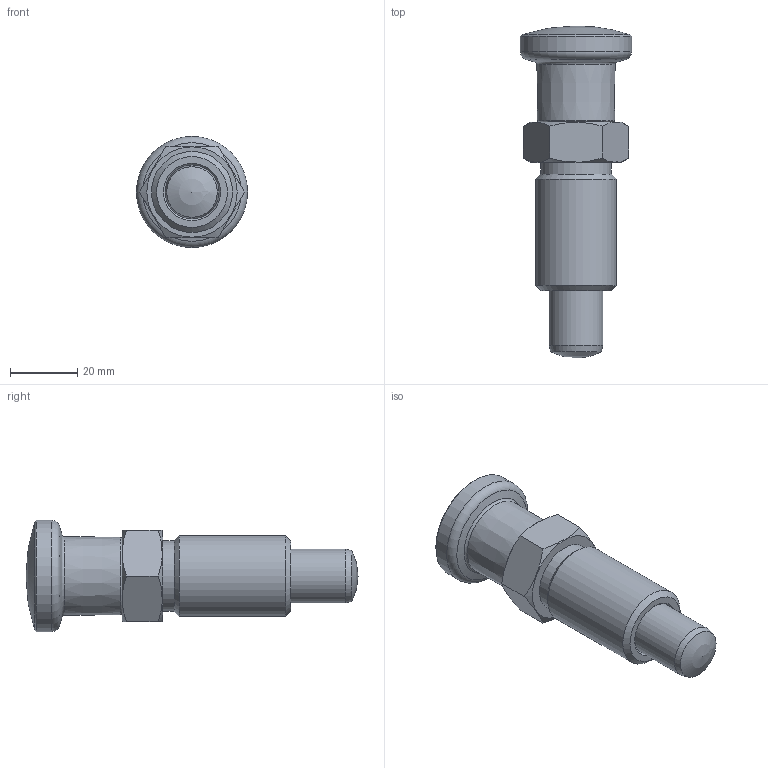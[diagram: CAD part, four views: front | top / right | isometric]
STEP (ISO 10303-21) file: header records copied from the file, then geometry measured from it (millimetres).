
FILE_DESCRIPTION( ( 'STEP AP203' ), '1' );
FILE_NAME( 'C:/Temp/Ganter_Step_05_03_2020/data/3_1/gn817/gn817_ni-rastbolzen_rot/Stainless steel-Indexing plunger GN 817-16-20-B-NI-RT (deactivated).stp', '2020-03-12T09:00:22', ( 'License CC BY-ND 4.0' ), ( 'CADENAS' ), ' ', 'PARTsolutions', ' ' );
FILE_SCHEMA( ( 'CONFIG_CONTROL_DESIGN' ) );
Length unit declared in the file: millimetre
Products named in the file (4): Stainless steel-Indexing plunger GN 817-16-20-B-NI-RT (deactivated); _Stainless steel-Indexing plunger GN 817-16-20-B-NI-RT (deactivated)-d; _Stainless steel-Indexing plunger GN 817-16-20-B-NI-RT-2; _Stainless Steel Indexing plunger GN 817-16-20-B-NI-RT-1
Assembly tree (3 placements, depth 2):
  Stainless steel-Indexing plunger GN 817-16-20-B-NI-RT (deactivated)
    _Stainless steel-Indexing plunger GN 817-16-20-B-NI-RT (deactivated)-d
    _Stainless steel-Indexing plunger GN 817-16-20-B-NI-RT-2
    _Stainless Steel Indexing plunger GN 817-16-20-B-NI-RT-1
Bounding box: 33 x 98.5 x 33 mm (x, y, z)
Volume: 40543.1 mm3; surface area: 14258.6 mm2
Topology: 2 solids, 2 shells, 36 faces, 74 edges, 45 vertices
Faces by surface type: plane 12, cone 10, cylinder 7, torus 5, sphere 2
Full cylindrical faces by diameter (mm): 10 x1, 12 x1, 16 x2, 21 x1, 24 x1, 33 x1
Entity records: 1043 total; most frequent: CARTESIAN_POINT 261, DIRECTION 142, ORIENTED_EDGE 92, AXIS2_PLACEMENT_3D 68, EDGE_LOOP 64, FACE_OUTER_BOUND 48, EDGE_CURVE 46, VERTEX_POINT 42
